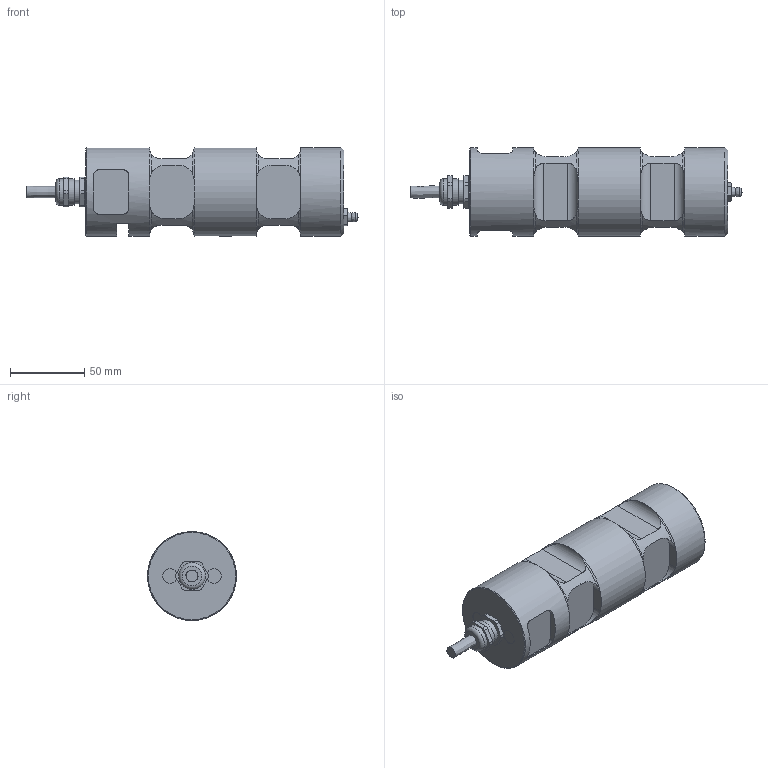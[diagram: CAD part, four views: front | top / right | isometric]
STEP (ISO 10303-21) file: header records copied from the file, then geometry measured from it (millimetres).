
FILE_DESCRIPTION(/* description */ ('Alibre Inc.'),/* implementation_level */ '2;1');
FILE_NAME(/* name */ 'export-12D17672-4C97-4757-B908-4B743F59E720',/* time_stamp */ '2018-12-20T11:58:19+01:00',/* author */ (''),/* organization */ (''),/* preprocessor_version */ 'ST-DEVELOPER v17',/* originating_system */ 'Alibre',/* authorisation */ '');
FILE_SCHEMA (('CONFIG_CONTROL_DESIGN'));
Length unit declared in the file: millimetre
Products named in the file (7): ID_1; ID_2; ID_3; ID_4
Bounding box: 224.15 x 60 x 60 mm (x, y, z)
Volume: 443734.2 mm3; surface area: 47128.8 mm2
Topology: 5 solids, 5 shells, 186 faces, 449 edges, 284 vertices
Faces by surface type: plane 82, cylinder 67, torus 18, cone 15, bspline 4
Full cylindrical faces by diameter (mm): 6 x2, 8 x1, 8.917 x1, 10 x3, 14.376 x1, 16 x2, 18 x2, 60 x3
Entity records: 9906 total; most frequent: CARTESIAN_POINT 5519, ORIENTED_EDGE 816, DIRECTION 604, EDGE_CURVE 408, VERTEX_POINT 275, AXIS2_PLACEMENT_3D 256, FACE_BOUND 233, EDGE_LOOP 230
